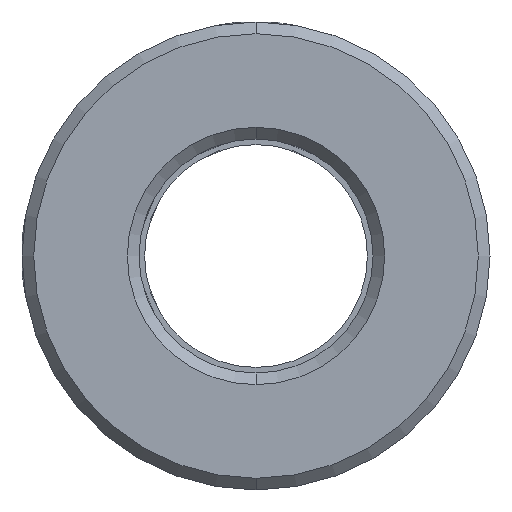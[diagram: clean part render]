
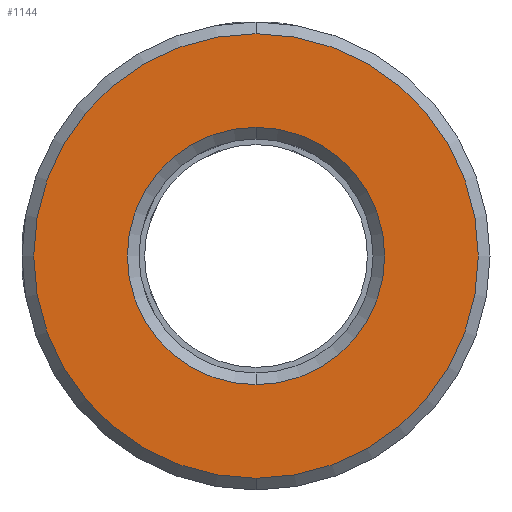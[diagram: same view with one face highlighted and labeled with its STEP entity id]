
A CAD part, front view. The second image highlights one B-rep face of the part: STEP entity #1144.
In plain terms, the highlighted planar face has unit normal (0, -1, 0).
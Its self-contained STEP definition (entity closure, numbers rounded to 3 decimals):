
#20 = EDGE_LOOP ( 'NONE', ( #1363, #3613 ) ) ;
#41 = CARTESIAN_POINT ( 'NONE',  ( -10.188, -0.277, 0.046 ) ) ;
#59 = DIRECTION ( 'NONE',  ( 0., 0., 1. ) ) ;
#76 = CARTESIAN_POINT ( 'NONE',  ( -10.188, -0.277, 0.046 ) ) ;
#89 = CIRCLE ( 'NONE', #3574, 5.5 ) ;
#147 = CARTESIAN_POINT ( 'NONE',  ( -10.188, -0.277, 0.046 ) ) ;
#296 = DIRECTION ( 'NONE',  ( 0., 1., 0. ) ) ;
#333 = DIRECTION ( 'NONE',  ( 0., -1., 0. ) ) ;
#560 = CARTESIAN_POINT ( 'NONE',  ( -10.188, -0.277, -9.454 ) ) ;
#657 = ORIENTED_EDGE ( 'NONE', *, *, #796, .T. ) ;
#699 = EDGE_CURVE ( 'NONE', #3385, #1111, #920, .T. ) ;
#753 = EDGE_LOOP ( 'NONE', ( #657, #1517 ) ) ;
#796 = EDGE_CURVE ( 'NONE', #3406, #1472, #89, .T. ) ;
#859 = AXIS2_PLACEMENT_3D ( 'NONE', #2092, #1821, #3453 ) ;
#920 = CIRCLE ( 'NONE', #1384, 9.5 ) ;
#988 = DIRECTION ( 'NONE',  ( 0., 0., 1. ) ) ;
#991 = CARTESIAN_POINT ( 'NONE',  ( -10.188, -0.277, 9.546 ) ) ;
#1092 = CARTESIAN_POINT ( 'NONE',  ( -10.188, -0.277, -5.454 ) ) ;
#1111 = VERTEX_POINT ( 'NONE', #560 ) ;
#1144 = ADVANCED_FACE ( 'NONE', ( #1686, #2584 ), #2828, .F. ) ;
#1363 = ORIENTED_EDGE ( 'NONE', *, *, #699, .T. ) ;
#1384 = AXIS2_PLACEMENT_3D ( 'NONE', #147, #3524, #988 ) ;
#1417 = DIRECTION ( 'NONE',  ( 0., 0., 1. ) ) ;
#1459 = DIRECTION ( 'NONE',  ( 0., 1., 0. ) ) ;
#1472 = VERTEX_POINT ( 'NONE', #2490 ) ;
#1478 = CIRCLE ( 'NONE', #2022, 9.5 ) ;
#1517 = ORIENTED_EDGE ( 'NONE', *, *, #3452, .T. ) ;
#1686 = FACE_OUTER_BOUND ( 'NONE', #20, .T. ) ;
#1751 = CARTESIAN_POINT ( 'NONE',  ( -10.188, -0.277, 0.046 ) ) ;
#1821 = DIRECTION ( 'NONE',  ( 0., 1., 0. ) ) ;
#1969 = EDGE_CURVE ( 'NONE', #1111, #3385, #1478, .T. ) ;
#2022 = AXIS2_PLACEMENT_3D ( 'NONE', #76, #333, #59 ) ;
#2092 = CARTESIAN_POINT ( 'NONE',  ( -10.188, -0.277, 0.046 ) ) ;
#2367 = DIRECTION ( 'NONE',  ( 0., 0., 1. ) ) ;
#2490 = CARTESIAN_POINT ( 'NONE',  ( -10.188, -0.277, 5.546 ) ) ;
#2584 = FACE_BOUND ( 'NONE', #753, .T. ) ;
#2828 = PLANE ( 'NONE',  #3032 ) ;
#3032 = AXIS2_PLACEMENT_3D ( 'NONE', #41, #296, #1417 ) ;
#3230 = CIRCLE ( 'NONE', #859, 5.5 ) ;
#3385 = VERTEX_POINT ( 'NONE', #991 ) ;
#3406 = VERTEX_POINT ( 'NONE', #1092 ) ;
#3452 = EDGE_CURVE ( 'NONE', #1472, #3406, #3230, .T. ) ;
#3453 = DIRECTION ( 'NONE',  ( 0., 0., 1. ) ) ;
#3524 = DIRECTION ( 'NONE',  ( 0., -1., 0. ) ) ;
#3574 = AXIS2_PLACEMENT_3D ( 'NONE', #1751, #1459, #2367 ) ;
#3613 = ORIENTED_EDGE ( 'NONE', *, *, #1969, .T. ) ;
